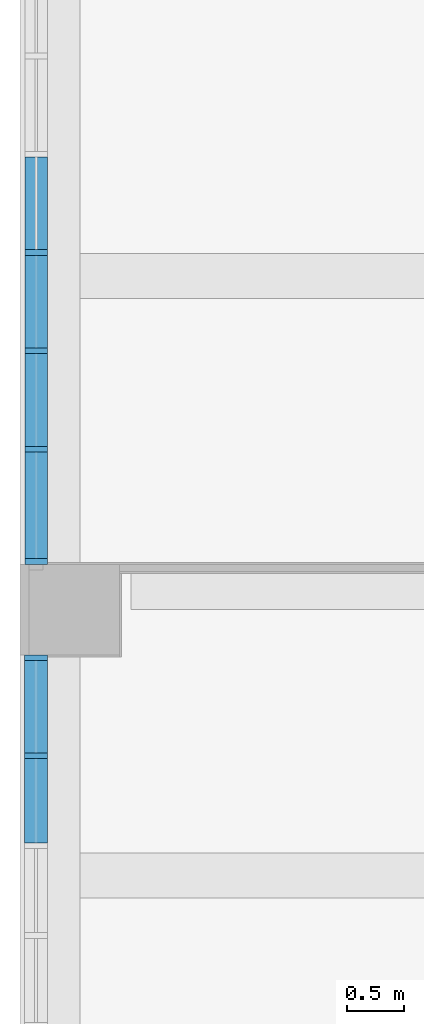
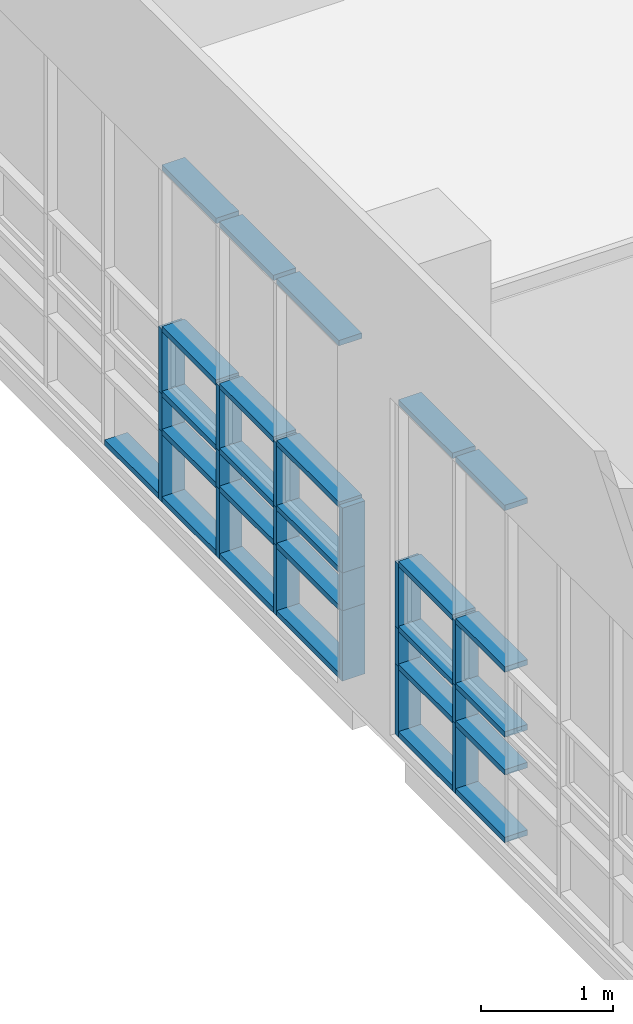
# One storey, part 20 of 74: 44 members, 2 elements without a shape of their own.
"""IFC2X3 building model written with IfcOpenShell, lengths in millimetres."""

from ifc_helpers import new_model, entity, si_unit, converted_unit, derived_unit, direction, frame, origin, origin_2d_with_axis, place, context, subcontext, project, spatial, rectangle, extrude, source, transform, mapped, material, type_object, type_shapes, element, aggregate, save


model = new_model("IFC2X3")

# Units and contexts
model_context = context("Model", 3, precision=0.01, world=origin(), true_north=direction((6.123031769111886e-17, 1.0)))
body_context = subcontext(model_context, "Body", "Model", "MODEL_VIEW")
ifc_project = project(units=[si_unit("LENGTHUNIT", "METRE", prefix="MILLI"), si_unit("AREAUNIT", "SQUARE_METRE"), si_unit("VOLUMEUNIT", "CUBIC_METRE"), converted_unit("PLANEANGLEUNIT", "DEGREE", entity("IfcRatioMeasure", 0.017453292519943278), si_unit("PLANEANGLEUNIT", "RADIAN"), dimensions=[0, 0, 0, 0, 0, 0, 0]), si_unit("MASSUNIT", "GRAM", prefix="KILO"), derived_unit("MASSDENSITYUNIT", [(si_unit("MASSUNIT", "GRAM", prefix="KILO"), 1), (si_unit("LENGTHUNIT", "METRE"), -3)]), derived_unit("MOMENTOFINERTIAUNIT", [(si_unit("LENGTHUNIT", "METRE"), 4)]), si_unit("TIMEUNIT", "SECOND"), si_unit("FREQUENCYUNIT", "HERTZ"), si_unit("THERMODYNAMICTEMPERATUREUNIT", "DEGREE_CELSIUS"), derived_unit("THERMALTRANSMITTANCEUNIT", [(si_unit("MASSUNIT", "GRAM", prefix="KILO"), 1), (si_unit("THERMODYNAMICTEMPERATUREUNIT", "KELVIN"), -1), (si_unit("TIMEUNIT", "SECOND"), -3)]), derived_unit("VOLUMETRICFLOWRATEUNIT", [(si_unit("LENGTHUNIT", "METRE"), 3), (si_unit("TIMEUNIT", "SECOND"), -1)]), derived_unit("MASSFLOWRATEUNIT", [(si_unit("MASSUNIT", "GRAM", prefix="KILO"), 1), (si_unit("TIMEUNIT", "SECOND"), -1)]), derived_unit("ROTATIONALFREQUENCYUNIT", [(si_unit("TIMEUNIT", "SECOND"), -1)]), si_unit("ELECTRICCURRENTUNIT", "AMPERE"), si_unit("ELECTRICVOLTAGEUNIT", "VOLT"), si_unit("POWERUNIT", "WATT"), si_unit("FORCEUNIT", "NEWTON", prefix="KILO"), si_unit("ILLUMINANCEUNIT", "LUX"), si_unit("LUMINOUSFLUXUNIT", "LUMEN"), si_unit("LUMINOUSINTENSITYUNIT", "CANDELA"), derived_unit("USERDEFINED", [(si_unit("MASSUNIT", "GRAM", prefix="KILO"), -1), (si_unit("LENGTHUNIT", "METRE"), -2), (si_unit("TIMEUNIT", "SECOND"), 3), (si_unit("LUMINOUSFLUXUNIT", "LUMEN"), 1)]), derived_unit("SOUNDPOWERUNIT", [(si_unit("MASSUNIT", "GRAM", prefix="KILO"), 1), (si_unit("LENGTHUNIT", "METRE"), 2), (si_unit("TIMEUNIT", "SECOND"), -3)]), derived_unit("SOUNDPRESSUREUNIT", [(si_unit("MASSUNIT", "GRAM", prefix="KILO"), 1), (si_unit("LENGTHUNIT", "METRE"), -1), (si_unit("TIMEUNIT", "SECOND"), -2)]), derived_unit("LINEARVELOCITYUNIT", [(si_unit("LENGTHUNIT", "METRE"), 1), (si_unit("TIMEUNIT", "SECOND"), -1)]), si_unit("PRESSUREUNIT", "PASCAL"), derived_unit("USERDEFINED", [(si_unit("LENGTHUNIT", "METRE"), -2), (si_unit("MASSUNIT", "GRAM", prefix="KILO"), 1), (si_unit("TIMEUNIT", "SECOND"), -2)]), derived_unit("LINEARFORCEUNIT", [(si_unit("MASSUNIT", "GRAM", prefix="KILO"), 1), (si_unit("LENGTHUNIT", "METRE"), 1), (si_unit("TIMEUNIT", "SECOND"), -2), (si_unit("LENGTHUNIT", "METRE"), -1)]), derived_unit("PLANARFORCEUNIT", [(si_unit("MASSUNIT", "GRAM", prefix="KILO"), 1), (si_unit("LENGTHUNIT", "METRE"), 1), (si_unit("TIMEUNIT", "SECOND"), -2), (si_unit("LENGTHUNIT", "METRE"), -2)])], contexts=[model_context])

# Site, building, storey
site_placement = place(None, frame((-14167.972527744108, -657.2125860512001, 0.0)))
site = spatial("IfcSite", under=ifc_project, at=site_placement, Name="Default", CompositionType="ELEMENT")
building_placement = place(site_placement, origin())
building = spatial("IfcBuilding", under=site, at=building_placement, Name="Sample Building", CompositionType="ELEMENT")
storey_placement = place(building_placement, frame((0.0, 0.0, 4800.0)))
storey = spatial("IfcBuildingStorey", under=building, at=storey_placement, Name="지상 2층", CompositionType="ELEMENT", Elevation=4800.000000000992)

# Curtain wall, members
curtain_wall_type = type_object("IfcCurtainWallType", Name="커튼월:CW112-스테인리스 스틸 커튼월", PredefinedType="NOTDEFINED")
curtain_wall_1_placement = place(storey_placement, frame((0.0, 0.0, -4800.0)))
curtain_wall_1 = element("IfcCurtainWall", 1, at=curtain_wall_1_placement, inside=storey, type_object=curtain_wall_type, Name="커튼월:CW112-스테인리스 스틸 커튼월", ObjectType="커튼월:CW112-스테인리스 스틸 커튼월")
ifc_material = material(Name="<Unnamed>")
member_type_1 = type_object("IfcMemberType", Name="직사각형 멀리언:CW200-직사각형 멀리언 50x200mm", PredefinedType="MULLION", material=ifc_material)
shared_shape_1 = source(origin(), body_context, "Body", "SweptSolid", [
    extrude(rectangle(XDim=200.0, YDim=50.0, at=origin_2d_with_axis()), frame((-25.0, 0.0, -600.0), z_axis=(0.0, 0.0, 1.0), x_axis=(0.0, -1.0, 0.0)), (0.0, 0.0, 1.0), 600.0),
])
type_shapes(member_type_1, [shared_shape_1])
member_1_placement = place(curtain_wall_1_placement, frame((14130.455105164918, 27757.212275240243, 5880.0), z_axis=(0.0, 0.0, -1.0), x_axis=(0.0, -1.0, 0.0)))
member_1 = element("IfcMember", 2, at=member_1_placement, type_object=member_type_1, material=ifc_material, Name="직사각형 멀리언:CW200-직사각형 멀리언 50x200mm", ObjectType="직사각형 멀리언:CW200-직사각형 멀리언 50x200mm", context=body_context, shape_type="MappedRepresentation", body=[
    mapped(shared_shape_1, transform((0.0, 0.0, 0.0), scale=1.0)),
])
member_type_2 = type_object("IfcMemberType", Name="직사각형 멀리언:CW200-직사각형 멀리언 50x200mm", PredefinedType="MULLION", material=ifc_material)
shared_shape_2 = source(origin(), body_context, "Body", "SweptSolid", [
    extrude(rectangle(XDim=200.0, YDim=50.0, at=origin_2d_with_axis()), frame((-25.0, 0.0, -943.7500000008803), z_axis=(0.0, 0.0, 1.0), x_axis=(0.0, -1.0, 0.0)), (0.0, 0.0, 1.0), 943.7500000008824),
])
type_shapes(member_type_2, [shared_shape_2])
member_2_placement = place(curtain_wall_1_placement, frame((14130.455105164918, 27807.212275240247, 8000.0), z_axis=(0.0, -1.0, 0.0), x_axis=(0.0, 0.0, 1.0)))
member_2 = element("IfcMember", 3, at=member_2_placement, type_object=member_type_2, material=ifc_material, Name="직사각형 멀리언:CW200-직사각형 멀리언 50x200mm", ObjectType="직사각형 멀리언:CW200-직사각형 멀리언 50x200mm", context=body_context, shape_type="MappedRepresentation", body=[
    mapped(shared_shape_2, transform((0.0, 0.0, 0.0), scale=1.0)),
])
member_type_3 = type_object("IfcMemberType", Name="직사각형 멀리언:CW200-직사각형 멀리언 50x200mm", PredefinedType="MULLION", material=ifc_material)
shared_shape_3 = source(origin(), body_context, "Body", "SweptSolid", [
    extrude(rectangle(XDim=200.0, YDim=50.0, at=origin_2d_with_axis()), frame((-25.0, 0.0, -650.0), z_axis=(0.0, 0.0, 1.0), x_axis=(0.0, -1.0, 0.0)), (0.0, 0.0, 1.0), 650.0000000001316),
])
type_shapes(member_type_3, [shared_shape_3])
member_3_placement = place(curtain_wall_1_placement, frame((14130.455105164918, 27757.212275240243, 4880.0), z_axis=(0.0, 0.0, -1.0), x_axis=(0.0, -1.0, 0.0)))
member_3 = element("IfcMember", 4, at=member_3_placement, type_object=member_type_3, material=ifc_material, Name="직사각형 멀리언:CW200-직사각형 멀리언 50x200mm", ObjectType="직사각형 멀리언:CW200-직사각형 멀리언 50x200mm", context=body_context, shape_type="MappedRepresentation", body=[
    mapped(shared_shape_3, transform((0.0, 0.0, 0.0), scale=1.0)),
])
member_type_4 = type_object("IfcMemberType", Name="직사각형 멀리언:CW200-직사각형 멀리언 50x200mm", PredefinedType="MULLION", material=ifc_material)
shared_shape_4 = source(origin(), body_context, "Body", "SweptSolid", [
    extrude(rectangle(XDim=200.0, YDim=50.0, at=origin_2d_with_axis()), frame((-25.0, 0.0, -818.7500000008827), z_axis=(0.0, 0.0, 1.0), x_axis=(0.0, -1.0, 0.0)), (0.0, 0.0, 1.0), 818.7500000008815),
])
type_shapes(member_type_4, [shared_shape_4])
member_4_placement = place(curtain_wall_1_placement, frame((14130.455105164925, 31357.212275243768, 4880.0), z_axis=(0.0, 1.0, 0.0), x_axis=(0.0, 0.0, -1.0)))
member_4 = element("IfcMember", 5, at=member_4_placement, type_object=member_type_4, material=ifc_material, Name="직사각형 멀리언:CW200-직사각형 멀리언 50x200mm", ObjectType="직사각형 멀리언:CW200-직사각형 멀리언 50x200mm", context=body_context, shape_type="MappedRepresentation", body=[
    mapped(shared_shape_4, transform((0.0, 0.0, 0.0), scale=1.0)),
])
member_5_placement = place(curtain_wall_1_placement, frame((14130.455105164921, 30488.462275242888, 4880.0), z_axis=(0.0, 1.0, 0.0), x_axis=(0.0, 0.0, -1.0)))
member_5 = element("IfcMember", 6, at=member_5_placement, type_object=member_type_4, material=ifc_material, Name="직사각형 멀리언:CW200-직사각형 멀리언 50x200mm", ObjectType="직사각형 멀리언:CW200-직사각형 멀리언 50x200mm", context=body_context, shape_type="MappedRepresentation", body=[
    mapped(shared_shape_4, transform((0.0, 0.0, 0.0), scale=1.0)),
])
member_6_placement = place(curtain_wall_1_placement, frame((14130.455105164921, 29619.712275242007, 4880.0), z_axis=(0.0, 1.0, 0.0), x_axis=(0.0, 0.0, -1.0)))
member_6 = element("IfcMember", 7, at=member_6_placement, type_object=member_type_4, material=ifc_material, Name="직사각형 멀리언:CW200-직사각형 멀리언 50x200mm", ObjectType="직사각형 멀리언:CW200-직사각형 멀리언 50x200mm", context=body_context, shape_type="MappedRepresentation", body=[
    mapped(shared_shape_4, transform((0.0, 0.0, 0.0), scale=1.0)),
])
member_type_5 = type_object("IfcMemberType", Name="직사각형 멀리언:CW200-직사각형 멀리언 50x200mm", PredefinedType="MULLION", material=ifc_material)
shared_shape_5 = source(origin(), body_context, "Body", "SweptSolid", [
    extrude(rectangle(XDim=200.0, YDim=50.0, at=origin_2d_with_axis()), frame((0.0, 0.0, -650.0), z_axis=(0.0, 0.0, 1.0), x_axis=(0.0, -1.0, 0.0)), (0.0, 0.0, 1.0), 650.0000000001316),
])
type_shapes(member_type_5, [shared_shape_5])
member_7_placement = place(curtain_wall_1_placement, frame((14130.455105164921, 30513.462275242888, 4880.0), z_axis=(0.0, 0.0, -1.0), x_axis=(0.0, -1.0, 0.0)))
member_7 = element("IfcMember", 8, at=member_7_placement, type_object=member_type_5, material=ifc_material, Name="직사각형 멀리언:CW200-직사각형 멀리언 50x200mm", ObjectType="직사각형 멀리언:CW200-직사각형 멀리언 50x200mm", context=body_context, shape_type="MappedRepresentation", body=[
    mapped(shared_shape_5, transform((0.0, 0.0, 0.0), scale=1.0)),
])
member_8_placement = place(curtain_wall_1_placement, frame((14130.455105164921, 29644.712275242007, 4880.0), z_axis=(0.0, 0.0, -1.0), x_axis=(0.0, -1.0, 0.0)))
member_8 = element("IfcMember", 9, at=member_8_placement, type_object=member_type_5, material=ifc_material, Name="직사각형 멀리언:CW200-직사각형 멀리언 50x200mm", ObjectType="직사각형 멀리언:CW200-직사각형 멀리언 50x200mm", context=body_context, shape_type="MappedRepresentation", body=[
    mapped(shared_shape_5, transform((0.0, 0.0, 0.0), scale=1.0)),
])
member_9_placement = place(curtain_wall_1_placement, frame((14130.45510516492, 28775.962275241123, 4880.0), z_axis=(0.0, 0.0, -1.0), x_axis=(0.0, -1.0, 0.0)))
member_9 = element("IfcMember", 10, at=member_9_placement, type_object=member_type_5, material=ifc_material, Name="직사각형 멀리언:CW200-직사각형 멀리언 50x200mm", ObjectType="직사각형 멀리언:CW200-직사각형 멀리언 50x200mm", context=body_context, shape_type="MappedRepresentation", body=[
    mapped(shared_shape_5, transform((0.0, 0.0, 0.0), scale=1.0)),
])
member_type_6 = type_object("IfcMemberType", Name="직사각형 멀리언:CW200-직사각형 멀리언 50x200mm", PredefinedType="MULLION", material=ifc_material)
shared_shape_6 = source(origin(), body_context, "Body", "SweptSolid", [
    extrude(rectangle(XDim=200.0, YDim=50.0, at=origin_2d_with_axis()), frame((-25.0, 0.0, -818.7500000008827), z_axis=(0.0, 0.0, 1.0), x_axis=(0.0, -1.0, 0.0)), (0.0, 0.0, 1.0), 818.7500000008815),
])
type_shapes(member_type_6, [shared_shape_6])
member_10_placement = place(curtain_wall_1_placement, frame((14130.455105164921, 29669.712275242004, 8000.0), z_axis=(0.0, -1.0, 0.0), x_axis=(0.0, 0.0, 1.0)))
member_10 = element("IfcMember", 11, at=member_10_placement, type_object=member_type_6, material=ifc_material, Name="직사각형 멀리언:CW200-직사각형 멀리언 50x200mm", ObjectType="직사각형 멀리언:CW200-직사각형 멀리언 50x200mm", context=body_context, shape_type="MappedRepresentation", body=[
    mapped(shared_shape_6, transform((0.0, 0.0, 0.0), scale=1.0)),
])
member_11_placement = place(curtain_wall_1_placement, frame((14130.45510516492, 28800.962275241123, 8000.0), z_axis=(0.0, -1.0, 0.0), x_axis=(0.0, 0.0, 1.0)))
member_11 = element("IfcMember", 12, at=member_11_placement, type_object=member_type_6, material=ifc_material, Name="직사각형 멀리언:CW200-직사각형 멀리언 50x200mm", ObjectType="직사각형 멀리언:CW200-직사각형 멀리언 50x200mm", context=body_context, shape_type="MappedRepresentation", body=[
    mapped(shared_shape_6, transform((0.0, 0.0, 0.0), scale=1.0)),
])
member_type_7 = type_object("IfcMemberType", Name="직사각형 멀리언:CW200-직사각형 멀리언 50x200mm", PredefinedType="MULLION", material=ifc_material)
shared_shape_7 = source(origin(), body_context, "Body", "SweptSolid", [
    extrude(rectangle(XDim=200.0, YDim=50.0, at=origin_2d_with_axis()), frame((-25.0, 0.0, -943.7500000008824), z_axis=(0.0, 0.0, 1.0), x_axis=(0.0, -1.0, 0.0)), (0.0, 0.0, 1.0), 943.7500000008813),
])
type_shapes(member_type_7, [shared_shape_7])
member_12_placement = place(curtain_wall_1_placement, frame((14130.45510516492, 28750.962275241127, 4880.0), z_axis=(0.0, 1.0, 0.0), x_axis=(0.0, 0.0, -1.0)))
member_12 = element("IfcMember", 13, at=member_12_placement, type_object=member_type_7, material=ifc_material, Name="직사각형 멀리언:CW200-직사각형 멀리언 50x200mm", ObjectType="직사각형 멀리언:CW200-직사각형 멀리언 50x200mm", context=body_context, shape_type="MappedRepresentation", body=[
    mapped(shared_shape_7, transform((0.0, 0.0, 0.0), scale=1.0)),
])
member_type_8 = type_object("IfcMemberType", Name="직사각형 멀리언:CW200-직사각형 멀리언 50x200mm", PredefinedType="MULLION", material=ifc_material)
shared_shape_8 = source(origin(), body_context, "Body", "SweptSolid", [
    extrude(rectangle(XDim=200.0, YDim=50.0, at=origin_2d_with_axis()), frame((0.0, 0.0, -818.7500000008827), z_axis=(0.0, 0.0, 1.0), x_axis=(0.0, -1.0, 0.0)), (0.0, 0.0, 1.0), 818.7500000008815),
])
type_shapes(member_type_8, [shared_shape_8])
member_13_placement = place(curtain_wall_1_placement, frame((14130.455105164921, 29669.712275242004, 5880.0), z_axis=(0.0, -1.0, 0.0), x_axis=(0.0, 0.0, 1.0)))
member_13 = element("IfcMember", 14, at=member_13_placement, type_object=member_type_8, material=ifc_material, Name="직사각형 멀리언:CW200-직사각형 멀리언 50x200mm", ObjectType="직사각형 멀리언:CW200-직사각형 멀리언 50x200mm", context=body_context, shape_type="MappedRepresentation", body=[
    mapped(shared_shape_8, transform((0.0, 0.0, 0.0), scale=1.0)),
])
member_14_placement = place(curtain_wall_1_placement, frame((14130.45510516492, 28800.962275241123, 5880.0), z_axis=(0.0, -1.0, 0.0), x_axis=(0.0, 0.0, 1.0)))
member_14 = element("IfcMember", 15, at=member_14_placement, type_object=member_type_8, material=ifc_material, Name="직사각형 멀리언:CW200-직사각형 멀리언 50x200mm", ObjectType="직사각형 멀리언:CW200-직사각형 멀리언 50x200mm", context=body_context, shape_type="MappedRepresentation", body=[
    mapped(shared_shape_8, transform((0.0, 0.0, 0.0), scale=1.0)),
])
member_15_placement = place(curtain_wall_1_placement, frame((14130.455105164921, 29669.712275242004, 6480.0), z_axis=(0.0, -1.0, 0.0), x_axis=(0.0, 0.0, 1.0)))
member_15 = element("IfcMember", 16, at=member_15_placement, type_object=member_type_8, material=ifc_material, Name="직사각형 멀리언:CW200-직사각형 멀리언 50x200mm", ObjectType="직사각형 멀리언:CW200-직사각형 멀리언 50x200mm", context=body_context, shape_type="MappedRepresentation", body=[
    mapped(shared_shape_8, transform((0.0, 0.0, 0.0), scale=1.0)),
])
member_16_placement = place(curtain_wall_1_placement, frame((14130.45510516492, 28800.962275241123, 6480.0), z_axis=(0.0, -1.0, 0.0), x_axis=(0.0, 0.0, 1.0)))
member_16 = element("IfcMember", 17, at=member_16_placement, type_object=member_type_8, material=ifc_material, Name="직사각형 멀리언:CW200-직사각형 멀리언 50x200mm", ObjectType="직사각형 멀리언:CW200-직사각형 멀리언 50x200mm", context=body_context, shape_type="MappedRepresentation", body=[
    mapped(shared_shape_8, transform((0.0, 0.0, 0.0), scale=1.0)),
])
member_17_placement = place(curtain_wall_1_placement, frame((14130.455105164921, 29669.712275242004, 5530.0), z_axis=(0.0, -1.0, 0.0), x_axis=(0.0, 0.0, 1.0)))
member_17 = element("IfcMember", 18, at=member_17_placement, type_object=member_type_8, material=ifc_material, Name="직사각형 멀리언:CW200-직사각형 멀리언 50x200mm", ObjectType="직사각형 멀리언:CW200-직사각형 멀리언 50x200mm", context=body_context, shape_type="MappedRepresentation", body=[
    mapped(shared_shape_8, transform((0.0, 0.0, 0.0), scale=1.0)),
])
member_18_placement = place(curtain_wall_1_placement, frame((14130.45510516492, 28800.962275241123, 5530.0), z_axis=(0.0, -1.0, 0.0), x_axis=(0.0, 0.0, 1.0)))
member_18 = element("IfcMember", 19, at=member_18_placement, type_object=member_type_8, material=ifc_material, Name="직사각형 멀리언:CW200-직사각형 멀리언 50x200mm", ObjectType="직사각형 멀리언:CW200-직사각형 멀리언 50x200mm", context=body_context, shape_type="MappedRepresentation", body=[
    mapped(shared_shape_8, transform((0.0, 0.0, 0.0), scale=1.0)),
])
member_type_9 = type_object("IfcMemberType", Name="직사각형 멀리언:CW200-직사각형 멀리언 50x200mm", PredefinedType="MULLION", material=ifc_material)
shared_shape_9 = source(origin(), body_context, "Body", "SweptSolid", [
    extrude(rectangle(XDim=200.0, YDim=50.0, at=origin_2d_with_axis()), frame((0.0, 0.0, -943.7500000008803), z_axis=(0.0, 0.0, 1.0), x_axis=(0.0, -1.0, 0.0)), (0.0, 0.0, 1.0), 943.7500000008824),
])
type_shapes(member_type_9, [shared_shape_9])
member_19_placement = place(curtain_wall_1_placement, frame((14130.455105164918, 27807.212275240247, 5880.0), z_axis=(0.0, -1.0, 0.0), x_axis=(0.0, 0.0, 1.0)))
member_19 = element("IfcMember", 20, at=member_19_placement, type_object=member_type_9, material=ifc_material, Name="직사각형 멀리언:CW200-직사각형 멀리언 50x200mm", ObjectType="직사각형 멀리언:CW200-직사각형 멀리언 50x200mm", context=body_context, shape_type="MappedRepresentation", body=[
    mapped(shared_shape_9, transform((0.0, 0.0, 0.0), scale=1.0)),
])
member_20_placement = place(curtain_wall_1_placement, frame((14130.455105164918, 27807.212275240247, 6480.0), z_axis=(0.0, -1.0, 0.0), x_axis=(0.0, 0.0, 1.0)))
member_20 = element("IfcMember", 21, at=member_20_placement, type_object=member_type_9, material=ifc_material, Name="직사각형 멀리언:CW200-직사각형 멀리언 50x200mm", ObjectType="직사각형 멀리언:CW200-직사각형 멀리언 50x200mm", context=body_context, shape_type="MappedRepresentation", body=[
    mapped(shared_shape_9, transform((0.0, 0.0, 0.0), scale=1.0)),
])
member_21_placement = place(curtain_wall_1_placement, frame((14130.455105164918, 27807.212275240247, 5530.0), z_axis=(0.0, -1.0, 0.0), x_axis=(0.0, 0.0, 1.0)))
member_21 = element("IfcMember", 22, at=member_21_placement, type_object=member_type_9, material=ifc_material, Name="직사각형 멀리언:CW200-직사각형 멀리언 50x200mm", ObjectType="직사각형 멀리언:CW200-직사각형 멀리언 50x200mm", context=body_context, shape_type="MappedRepresentation", body=[
    mapped(shared_shape_9, transform((0.0, 0.0, 0.0), scale=1.0)),
])
member_type_10 = type_object("IfcMemberType", Name="직사각형 멀리언:CW200-직사각형 멀리언 50x200mm", PredefinedType="MULLION", material=ifc_material)
shared_shape_10 = source(origin(), body_context, "Body", "SweptSolid", [
    extrude(rectangle(XDim=200.0, YDim=50.0, at=origin_2d_with_axis()), frame((0.0, 0.0, -600.0), z_axis=(0.0, 0.0, 1.0), x_axis=(0.0, -1.0, 0.0)), (0.0, 0.0, 1.0), 600.0),
])
type_shapes(member_type_10, [shared_shape_10])
member_22_placement = place(curtain_wall_1_placement, frame((14130.455105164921, 30513.462275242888, 5880.0), z_axis=(0.0, 0.0, -1.0), x_axis=(0.0, -1.0, 0.0)))
member_22 = element("IfcMember", 23, at=member_22_placement, type_object=member_type_10, material=ifc_material, Name="직사각형 멀리언:CW200-직사각형 멀리언 50x200mm", ObjectType="직사각형 멀리언:CW200-직사각형 멀리언 50x200mm", context=body_context, shape_type="MappedRepresentation", body=[
    mapped(shared_shape_10, transform((0.0, 0.0, 0.0), scale=1.0)),
])
member_23_placement = place(curtain_wall_1_placement, frame((14130.455105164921, 29644.712275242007, 5880.0), z_axis=(0.0, 0.0, -1.0), x_axis=(0.0, -1.0, 0.0)))
member_23 = element("IfcMember", 24, at=member_23_placement, type_object=member_type_10, material=ifc_material, Name="직사각형 멀리언:CW200-직사각형 멀리언 50x200mm", ObjectType="직사각형 멀리언:CW200-직사각형 멀리언 50x200mm", context=body_context, shape_type="MappedRepresentation", body=[
    mapped(shared_shape_10, transform((0.0, 0.0, 0.0), scale=1.0)),
])
member_24_placement = place(curtain_wall_1_placement, frame((14130.45510516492, 28775.962275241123, 5880.0), z_axis=(0.0, 0.0, -1.0), x_axis=(0.0, -1.0, 0.0)))
member_24 = element("IfcMember", 25, at=member_24_placement, type_object=member_type_10, material=ifc_material, Name="직사각형 멀리언:CW200-직사각형 멀리언 50x200mm", ObjectType="직사각형 멀리언:CW200-직사각형 멀리언 50x200mm", context=body_context, shape_type="MappedRepresentation", body=[
    mapped(shared_shape_10, transform((0.0, 0.0, 0.0), scale=1.0)),
])
member_type_11 = type_object("IfcMemberType", Name="직사각형 멀리언:CW200-직사각형 멀리언 50x200mm", PredefinedType="MULLION", material=ifc_material)
shared_shape_11 = source(origin(), body_context, "Body", "SweptSolid", [
    extrude(rectangle(XDim=200.0, YDim=50.0, at=origin_2d_with_axis()), frame((-25.0, 0.0, -350.0), z_axis=(0.0, 0.0, 1.0), x_axis=(0.0, -1.0, 0.0)), (0.0, 0.0, 1.0), 350.00000000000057),
])
type_shapes(member_type_11, [shared_shape_11])
member_25_placement = place(curtain_wall_1_placement, frame((14130.455105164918, 27757.212275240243, 5530.0), z_axis=(0.0, 0.0, -1.0), x_axis=(0.0, -1.0, 0.0)))
member_25 = element("IfcMember", 26, at=member_25_placement, type_object=member_type_11, material=ifc_material, Name="직사각형 멀리언:CW200-직사각형 멀리언 50x200mm", ObjectType="직사각형 멀리언:CW200-직사각형 멀리언 50x200mm", context=body_context, shape_type="MappedRepresentation", body=[
    mapped(shared_shape_11, transform((0.0, 0.0, 0.0), scale=1.0)),
])
member_type_12 = type_object("IfcMemberType", Name="직사각형 멀리언:CW200-직사각형 멀리언 50x200mm", PredefinedType="MULLION", material=ifc_material)
shared_shape_12 = source(origin(), body_context, "Body", "SweptSolid", [
    extrude(rectangle(XDim=200.0, YDim=50.0, at=origin_2d_with_axis()), frame((0.0, 0.0, -350.0), z_axis=(0.0, 0.0, 1.0), x_axis=(0.0, -1.0, 0.0)), (0.0, 0.0, 1.0), 350.00000000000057),
])
type_shapes(member_type_12, [shared_shape_12])
member_26_placement = place(curtain_wall_1_placement, frame((14130.455105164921, 30513.462275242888, 5530.0), z_axis=(0.0, 0.0, -1.0), x_axis=(0.0, -1.0, 0.0)))
member_26 = element("IfcMember", 27, at=member_26_placement, type_object=member_type_12, material=ifc_material, Name="직사각형 멀리언:CW200-직사각형 멀리언 50x200mm", ObjectType="직사각형 멀리언:CW200-직사각형 멀리언 50x200mm", context=body_context, shape_type="MappedRepresentation", body=[
    mapped(shared_shape_12, transform((0.0, 0.0, 0.0), scale=1.0)),
])
member_27_placement = place(curtain_wall_1_placement, frame((14130.455105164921, 29644.712275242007, 5530.0), z_axis=(0.0, 0.0, -1.0), x_axis=(0.0, -1.0, 0.0)))
member_27 = element("IfcMember", 28, at=member_27_placement, type_object=member_type_12, material=ifc_material, Name="직사각형 멀리언:CW200-직사각형 멀리언 50x200mm", ObjectType="직사각형 멀리언:CW200-직사각형 멀리언 50x200mm", context=body_context, shape_type="MappedRepresentation", body=[
    mapped(shared_shape_12, transform((0.0, 0.0, 0.0), scale=1.0)),
])
member_28_placement = place(curtain_wall_1_placement, frame((14130.45510516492, 28775.962275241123, 5530.0), z_axis=(0.0, 0.0, -1.0), x_axis=(0.0, -1.0, 0.0)))
member_28 = element("IfcMember", 29, at=member_28_placement, type_object=member_type_12, material=ifc_material, Name="직사각형 멀리언:CW200-직사각형 멀리언 50x200mm", ObjectType="직사각형 멀리언:CW200-직사각형 멀리언 50x200mm", context=body_context, shape_type="MappedRepresentation", body=[
    mapped(shared_shape_12, transform((0.0, 0.0, 0.0), scale=1.0)),
])
aggregate(curtain_wall_1, [member_2, member_3, member_4, member_5, member_7, member_10, member_6, member_8, member_11, member_12, member_9, member_13, member_14, member_19, member_1, member_15, member_16, member_20, member_22, member_23, member_24, member_25, member_17, member_18, member_21, member_26, member_27, member_28])

curtain_wall_2_placement = place(storey_placement, frame((0.0, 0.0, -4800.0)))
curtain_wall_2 = element("IfcCurtainWall", 30, at=curtain_wall_2_placement, inside=storey, type_object=curtain_wall_type, Name="커튼월:CW112-스테인리스 스틸 커튼월", ObjectType="커튼월:CW112-스테인리스 스틸 커튼월")
member_type_13 = type_object("IfcMemberType", Name="직사각형 멀리언:CW200-직사각형 멀리언 50x200mm", PredefinedType="MULLION", material=ifc_material)
shared_shape_13 = source(origin(), body_context, "Body", "SweptSolid", [
    extrude(rectangle(XDim=200.0, YDim=50.0, at=origin_2d_with_axis()), frame((-25.0, 0.0, -818.7326159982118), z_axis=(0.0, 0.0, 1.0), x_axis=(0.0, -1.0, 0.0)), (0.0, 0.0, 1.0), 818.732615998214),
])
type_shapes(member_type_13, [shared_shape_13])
member_29_placement = place(curtain_wall_2_placement, frame((14129.839654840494, 26907.194891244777, 4880.0), z_axis=(0.0, 1.0, 0.0), x_axis=(0.0, 0.0, -1.0)))
member_29 = element("IfcMember", 31, at=member_29_placement, type_object=member_type_13, material=ifc_material, Name="직사각형 멀리언:CW200-직사각형 멀리언 50x200mm", ObjectType="직사각형 멀리언:CW200-직사각형 멀리언 50x200mm", context=body_context, shape_type="MappedRepresentation", body=[
    mapped(shared_shape_13, transform((0.0, 0.0, 0.0), scale=1.0)),
])
member_type_14 = type_object("IfcMemberType", Name="직사각형 멀리언:CW200-직사각형 멀리언 50x200mm", PredefinedType="MULLION", material=ifc_material)
shared_shape_14 = source(origin(), body_context, "Body", "SweptSolid", [
    extrude(rectangle(XDim=200.0, YDim=50.0, at=origin_2d_with_axis()), frame((-25.0, 0.0, -818.7326159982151), z_axis=(0.0, 0.0, 1.0), x_axis=(0.0, -1.0, 0.0)), (0.0, 0.0, 1.0), 818.732615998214),
])
type_shapes(member_type_14, [shared_shape_14])
member_30_placement = place(curtain_wall_2_placement, frame((14129.839654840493, 26088.462275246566, 8000.0), z_axis=(0.0, -1.0, 0.0), x_axis=(0.0, 0.0, 1.0)))
member_30 = element("IfcMember", 32, at=member_30_placement, type_object=member_type_14, material=ifc_material, Name="직사각형 멀리언:CW200-직사각형 멀리언 50x200mm", ObjectType="직사각형 멀리언:CW200-직사각형 멀리언 50x200mm", context=body_context, shape_type="MappedRepresentation", body=[
    mapped(shared_shape_14, transform((0.0, 0.0, 0.0), scale=1.0)),
])
member_type_15 = type_object("IfcMemberType", Name="직사각형 멀리언:CW200-직사각형 멀리언 50x200mm", PredefinedType="MULLION", material=ifc_material)
shared_shape_15 = source(origin(), body_context, "Body", "SweptSolid", [
    extrude(rectangle(XDim=200.0, YDim=50.0, at=origin_2d_with_axis()), frame((-25.0, 0.0, -743.7500000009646), z_axis=(0.0, 0.0, 1.0), x_axis=(0.0, -1.0, 0.0)), (0.0, 0.0, 1.0), 743.7500000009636),
])
type_shapes(member_type_15, [shared_shape_15])
member_31_placement = place(curtain_wall_2_placement, frame((14129.839654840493, 26038.46227524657, 4880.0), z_axis=(0.0, 1.0, 0.0), x_axis=(0.0, 0.0, -1.0)))
member_31 = element("IfcMember", 33, at=member_31_placement, type_object=member_type_15, material=ifc_material, Name="직사각형 멀리언:CW200-직사각형 멀리언 50x200mm", ObjectType="직사각형 멀리언:CW200-직사각형 멀리언 50x200mm", context=body_context, shape_type="MappedRepresentation", body=[
    mapped(shared_shape_15, transform((0.0, 0.0, 0.0), scale=1.0)),
])
member_type_16 = type_object("IfcMemberType", Name="직사각형 멀리언:CW200-직사각형 멀리언 50x200mm", PredefinedType="MULLION", material=ifc_material)
shared_shape_16 = source(origin(), body_context, "Body", "SweptSolid", [
    extrude(rectangle(XDim=200.0, YDim=50.0, at=origin_2d_with_axis()), frame((0.0, 0.0, -650.0), z_axis=(0.0, 0.0, 1.0), x_axis=(0.0, -1.0, 0.0)), (0.0, 0.0, 1.0), 650.0000000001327),
])
type_shapes(member_type_16, [shared_shape_16])
member_32_placement = place(curtain_wall_2_placement, frame((14129.839654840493, 26063.462275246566, 4880.0), z_axis=(0.0, 0.0, -1.0), x_axis=(0.0, -1.0, 0.0)))
member_32 = element("IfcMember", 34, at=member_32_placement, type_object=member_type_16, material=ifc_material, Name="직사각형 멀리언:CW200-직사각형 멀리언 50x200mm", ObjectType="직사각형 멀리언:CW200-직사각형 멀리언 50x200mm", context=body_context, shape_type="MappedRepresentation", body=[
    mapped(shared_shape_16, transform((0.0, 0.0, 0.0), scale=1.0)),
])
member_type_17 = type_object("IfcMemberType", Name="직사각형 멀리언:CW200-직사각형 멀리언 50x200mm", PredefinedType="MULLION", material=ifc_material)
shared_shape_17 = source(origin(), body_context, "Body", "SweptSolid", [
    extrude(rectangle(XDim=200.0, YDim=50.0, at=origin_2d_with_axis()), frame((-25.0, 0.0, -600.0), z_axis=(0.0, 0.0, 1.0), x_axis=(0.0, -1.0, 0.0)), (0.0, 0.0, 1.0), 600.0),
])
type_shapes(member_type_17, [shared_shape_17])
member_33_placement = place(curtain_wall_2_placement, frame((14129.839654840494, 26957.19489124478, 6480.0), z_axis=(0.0, 0.0, 1.0), x_axis=(0.0, 1.0, 0.0)))
member_33 = element("IfcMember", 35, at=member_33_placement, type_object=member_type_17, material=ifc_material, Name="직사각형 멀리언:CW200-직사각형 멀리언 50x200mm", ObjectType="직사각형 멀리언:CW200-직사각형 멀리언 50x200mm", context=body_context, shape_type="MappedRepresentation", body=[
    mapped(shared_shape_17, transform((0.0, 0.0, 0.0), scale=1.0)),
])
member_type_18 = type_object("IfcMemberType", Name="직사각형 멀리언:CW200-직사각형 멀리언 50x200mm", PredefinedType="MULLION", material=ifc_material)
shared_shape_18 = source(origin(), body_context, "Body", "SweptSolid", [
    extrude(rectangle(XDim=200.0, YDim=50.0, at=origin_2d_with_axis()), frame((0.0, 0.0, -818.732615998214), z_axis=(0.0, 0.0, 1.0), x_axis=(0.0, -1.0, 0.0)), (0.0, 0.0, 1.0), 818.732615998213),
])
type_shapes(member_type_18, [shared_shape_18])
member_34_placement = place(curtain_wall_2_placement, frame((14129.839654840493, 26088.462275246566, 6480.0), z_axis=(0.0, -1.0, 0.0), x_axis=(0.0, 0.0, 1.0)))
member_34 = element("IfcMember", 36, at=member_34_placement, type_object=member_type_18, material=ifc_material, Name="직사각형 멀리언:CW200-직사각형 멀리언 50x200mm", ObjectType="직사각형 멀리언:CW200-직사각형 멀리언 50x200mm", context=body_context, shape_type="MappedRepresentation", body=[
    mapped(shared_shape_18, transform((0.0, 0.0, 0.0), scale=1.0)),
])
member_35_placement = place(curtain_wall_2_placement, frame((14129.839654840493, 26088.462275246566, 5880.0), z_axis=(0.0, -1.0, 0.0), x_axis=(0.0, 0.0, 1.0)))
member_35 = element("IfcMember", 37, at=member_35_placement, type_object=member_type_18, material=ifc_material, Name="직사각형 멀리언:CW200-직사각형 멀리언 50x200mm", ObjectType="직사각형 멀리언:CW200-직사각형 멀리언 50x200mm", context=body_context, shape_type="MappedRepresentation", body=[
    mapped(shared_shape_18, transform((0.0, 0.0, 0.0), scale=1.0)),
])
member_36_placement = place(curtain_wall_2_placement, frame((14129.839654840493, 26088.462275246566, 5530.0), z_axis=(0.0, -1.0, 0.0), x_axis=(0.0, 0.0, 1.0)))
member_36 = element("IfcMember", 38, at=member_36_placement, type_object=member_type_18, material=ifc_material, Name="직사각형 멀리언:CW200-직사각형 멀리언 50x200mm", ObjectType="직사각형 멀리언:CW200-직사각형 멀리언 50x200mm", context=body_context, shape_type="MappedRepresentation", body=[
    mapped(shared_shape_18, transform((0.0, 0.0, 0.0), scale=1.0)),
])
member_type_19 = type_object("IfcMemberType", Name="직사각형 멀리언:CW200-직사각형 멀리언 50x200mm", PredefinedType="MULLION", material=ifc_material)
shared_shape_19 = source(origin(), body_context, "Body", "SweptSolid", [
    extrude(rectangle(XDim=200.0, YDim=50.0, at=origin_2d_with_axis()), frame((0.0, 0.0, -743.7500000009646), z_axis=(0.0, 0.0, 1.0), x_axis=(0.0, -1.0, 0.0)), (0.0, 0.0, 1.0), 743.7500000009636),
])
type_shapes(member_type_19, [shared_shape_19])
member_37_placement = place(curtain_wall_2_placement, frame((14129.839654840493, 25294.7122752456, 6480.0), z_axis=(0.0, -1.0, 0.0), x_axis=(0.0, 0.0, 1.0)))
member_37 = element("IfcMember", 39, at=member_37_placement, type_object=member_type_19, material=ifc_material, Name="직사각형 멀리언:CW200-직사각형 멀리언 50x200mm", ObjectType="직사각형 멀리언:CW200-직사각형 멀리언 50x200mm", context=body_context, shape_type="MappedRepresentation", body=[
    mapped(shared_shape_19, transform((0.0, 0.0, 0.0), scale=1.0)),
])
member_38_placement = place(curtain_wall_2_placement, frame((14129.839654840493, 25294.7122752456, 5880.0), z_axis=(0.0, -1.0, 0.0), x_axis=(0.0, 0.0, 1.0)))
member_38 = element("IfcMember", 40, at=member_38_placement, type_object=member_type_19, material=ifc_material, Name="직사각형 멀리언:CW200-직사각형 멀리언 50x200mm", ObjectType="직사각형 멀리언:CW200-직사각형 멀리언 50x200mm", context=body_context, shape_type="MappedRepresentation", body=[
    mapped(shared_shape_19, transform((0.0, 0.0, 0.0), scale=1.0)),
])
member_39_placement = place(curtain_wall_2_placement, frame((14129.839654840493, 25294.7122752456, 5530.0), z_axis=(0.0, -1.0, 0.0), x_axis=(0.0, 0.0, 1.0)))
member_39 = element("IfcMember", 41, at=member_39_placement, type_object=member_type_19, material=ifc_material, Name="직사각형 멀리언:CW200-직사각형 멀리언 50x200mm", ObjectType="직사각형 멀리언:CW200-직사각형 멀리언 50x200mm", context=body_context, shape_type="MappedRepresentation", body=[
    mapped(shared_shape_19, transform((0.0, 0.0, 0.0), scale=1.0)),
])
member_type_20 = type_object("IfcMemberType", Name="직사각형 멀리언:CW200-직사각형 멀리언 50x200mm", PredefinedType="MULLION", material=ifc_material)
shared_shape_20 = source(origin(), body_context, "Body", "SweptSolid", [
    extrude(rectangle(XDim=200.0, YDim=50.0, at=origin_2d_with_axis()), frame((-25.0, 0.0, -743.7500000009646), z_axis=(0.0, 0.0, 1.0), x_axis=(0.0, -1.0, 0.0)), (0.0, 0.0, 1.0), 743.7500000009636),
])
type_shapes(member_type_20, [shared_shape_20])
member_40_placement = place(curtain_wall_2_placement, frame((14129.839654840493, 25294.7122752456, 8000.0), z_axis=(0.0, -1.0, 0.0), x_axis=(0.0, 0.0, 1.0)))
member_40 = element("IfcMember", 42, at=member_40_placement, type_object=member_type_20, material=ifc_material, Name="직사각형 멀리언:CW200-직사각형 멀리언 50x200mm", ObjectType="직사각형 멀리언:CW200-직사각형 멀리언 50x200mm", context=body_context, shape_type="MappedRepresentation", body=[
    mapped(shared_shape_20, transform((0.0, 0.0, 0.0), scale=1.0)),
])
member_type_21 = type_object("IfcMemberType", Name="직사각형 멀리언:CW200-직사각형 멀리언 50x200mm", PredefinedType="MULLION", material=ifc_material)
shared_shape_21 = source(origin(), body_context, "Body", "SweptSolid", [
    extrude(rectangle(XDim=200.0, YDim=50.0, at=origin_2d_with_axis()), frame((-25.0, 0.0, -350.0), z_axis=(0.0, 0.0, 1.0), x_axis=(0.0, -1.0, 0.0)), (0.0, 0.0, 1.0), 349.9999999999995),
])
type_shapes(member_type_21, [shared_shape_21])
member_41_placement = place(curtain_wall_2_placement, frame((14129.839654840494, 26957.19489124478, 5880.0), z_axis=(0.0, 0.0, 1.0), x_axis=(0.0, 1.0, 0.0)))
member_41 = element("IfcMember", 43, at=member_41_placement, type_object=member_type_21, material=ifc_material, Name="직사각형 멀리언:CW200-직사각형 멀리언 50x200mm", ObjectType="직사각형 멀리언:CW200-직사각형 멀리언 50x200mm", context=body_context, shape_type="MappedRepresentation", body=[
    mapped(shared_shape_21, transform((0.0, 0.0, 0.0), scale=1.0)),
])
member_type_22 = type_object("IfcMemberType", Name="직사각형 멀리언:CW200-직사각형 멀리언 50x200mm", PredefinedType="MULLION", material=ifc_material)
shared_shape_22 = source(origin(), body_context, "Body", "SweptSolid", [
    extrude(rectangle(XDim=200.0, YDim=50.0, at=origin_2d_with_axis()), frame((0.0, 0.0, -600.0), z_axis=(0.0, 0.0, 1.0), x_axis=(0.0, -1.0, 0.0)), (0.0, 0.0, 1.0), 600.0),
])
type_shapes(member_type_22, [shared_shape_22])
member_42_placement = place(curtain_wall_2_placement, frame((14129.839654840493, 26063.462275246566, 5880.0), z_axis=(0.0, 0.0, -1.0), x_axis=(0.0, -1.0, 0.0)))
member_42 = element("IfcMember", 44, at=member_42_placement, type_object=member_type_22, material=ifc_material, Name="직사각형 멀리언:CW200-직사각형 멀리언 50x200mm", ObjectType="직사각형 멀리언:CW200-직사각형 멀리언 50x200mm", context=body_context, shape_type="MappedRepresentation", body=[
    mapped(shared_shape_22, transform((0.0, 0.0, 0.0), scale=1.0)),
])
member_type_23 = type_object("IfcMemberType", Name="직사각형 멀리언:CW200-직사각형 멀리언 50x200mm", PredefinedType="MULLION", material=ifc_material)
shared_shape_23 = source(origin(), body_context, "Body", "SweptSolid", [
    extrude(rectangle(XDim=200.0, YDim=50.0, at=origin_2d_with_axis()), frame((-25.0, 0.0, -650.0), z_axis=(0.0, 0.0, 1.0), x_axis=(0.0, -1.0, 0.0)), (0.0, 0.0, 1.0), 650.0000000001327),
])
type_shapes(member_type_23, [shared_shape_23])
member_43_placement = place(curtain_wall_2_placement, frame((14129.839654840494, 26957.19489124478, 5530.0), z_axis=(0.0, 0.0, 1.0), x_axis=(0.0, 1.0, 0.0)))
member_43 = element("IfcMember", 45, at=member_43_placement, type_object=member_type_23, material=ifc_material, Name="직사각형 멀리언:CW200-직사각형 멀리언 50x200mm", ObjectType="직사각형 멀리언:CW200-직사각형 멀리언 50x200mm", context=body_context, shape_type="MappedRepresentation", body=[
    mapped(shared_shape_23, transform((0.0, 0.0, 0.0), scale=1.0)),
])
member_type_24 = type_object("IfcMemberType", Name="직사각형 멀리언:CW200-직사각형 멀리언 50x200mm", PredefinedType="MULLION", material=ifc_material)
shared_shape_24 = source(origin(), body_context, "Body", "SweptSolid", [
    extrude(rectangle(XDim=200.0, YDim=50.0, at=origin_2d_with_axis()), frame((0.0, 0.0, -350.0), z_axis=(0.0, 0.0, 1.0), x_axis=(0.0, -1.0, 0.0)), (0.0, 0.0, 1.0), 349.9999999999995),
])
type_shapes(member_type_24, [shared_shape_24])
member_44_placement = place(curtain_wall_2_placement, frame((14129.839654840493, 26063.462275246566, 5530.0), z_axis=(0.0, 0.0, -1.0), x_axis=(0.0, -1.0, 0.0)))
member_44 = element("IfcMember", 46, at=member_44_placement, type_object=member_type_24, material=ifc_material, Name="직사각형 멀리언:CW200-직사각형 멀리언 50x200mm", ObjectType="직사각형 멀리언:CW200-직사각형 멀리언 50x200mm", context=body_context, shape_type="MappedRepresentation", body=[
    mapped(shared_shape_24, transform((0.0, 0.0, 0.0), scale=1.0)),
])
aggregate(curtain_wall_2, [member_29, member_30, member_31, member_32, member_33, member_34, member_37, member_40, member_41, member_35, member_38, member_42, member_43, member_36, member_39, member_44])

save(model, "model.ifc")
